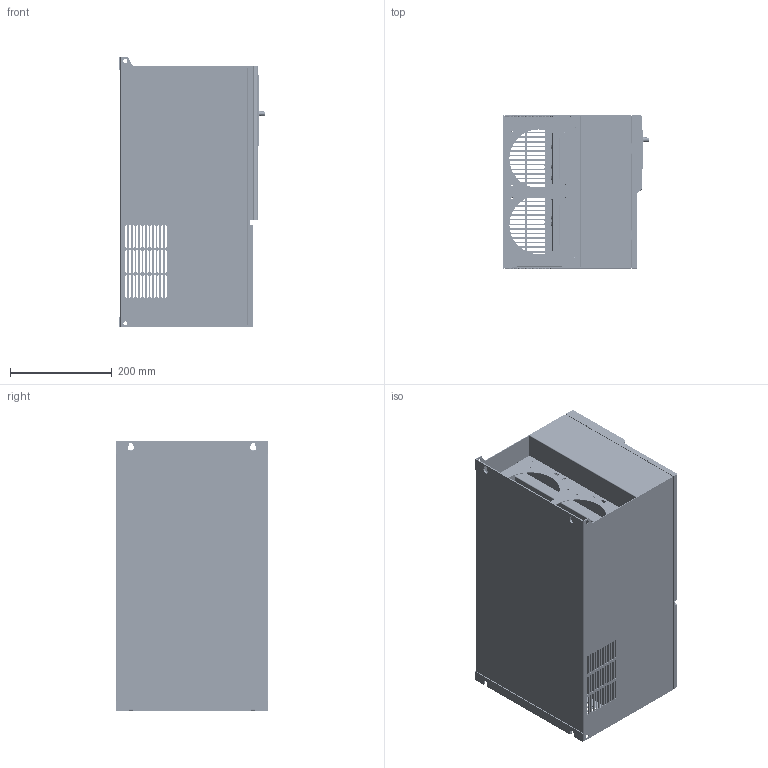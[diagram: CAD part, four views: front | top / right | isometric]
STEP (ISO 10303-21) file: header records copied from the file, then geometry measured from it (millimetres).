
FILE_DESCRIPTION(('STEP AP203'), '1');
FILE_NAME('Ïðåîáðàçîâàòåëü ÷àñòîòû _ MCI-G45_P55-4', '', ('UNSPECIFIED'), ('UNSPECIFIED'), 'C3D Converter', 'C3D Toolkit', '');
FILE_SCHEMA(('CONFIG_CONTROL_DESIGN'));
Length unit declared in the file: millimetre
Products named in the file (50): MCI-G45_P55-4; MCI-G45; S-M4-1; FCI-G75; BSO-M4-10; BSO-M3-12; ПУ; S-M3-1; S-M8-1; Клемма; MCI-MF-B; MCI-KP-B
Assembly tree (131 placements, depth 4):
  MCI-G45_P55-4
    MCI-G45
      MCI-G45
        MCI-G45
        S-M4-1  x2
      MCI-G45
        MCI-G45
        S-M4-1  x5
        FCI-G75  x2
      MCI-G45
        MCI-G45
        S-M4-1  x15
        BSO-M4-10  x2
      MCI-G45  x2
        MCI-G45
        S-M4-1
      MCI-G45
      MCI-G45
      MCI-G45  x8
      MCI-G45  x2
      MCI-G45  x2
        MCI-G45
        S-M4-1
      MCI-G45  x4
        MCI-G45
        S-M4-1
      MCI-G45
        MCI-G45
        S-M4-1  x2
    MCI-G45
      MCI-G45
      S-M4-1  x8
    MCI-G45
      MCI-G45
      FCI-G75  x4
    MCI-G45
      MCI-G45
      BSO-M3-12  x4
      S-M4-1  x3
      MCI-G45
        ПУ
        ПУ
        ПУ
    MCI-G45
    MCI-G45
      MCI-G45
      S-M3-1  x9
      S-M8-1  x2
      MCI-G45  x9
        Клемма
        Клемма
        Клемма
    MCI-G45
      MCI-G45
      S-M4-1  x2
    MCI-G45
    MCI-G45
      MCI-G45
      S-M4-1  x2
    MCI-MF-B
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Bounding box: 285.67 x 300 x 531 mm (x, y, z)
Volume: 1815773.8 mm3; surface area: 2233742 mm2
Topology: 150 solids, 154 shells, 9131 faces, 24392 edges, 15994 vertices
Faces by surface type: plane 7384, cylinder 1373, cone 216, torus 102, extrusion 48, bspline 4, revolution 2, sphere 2
Full cylindrical faces by diameter (mm): 0.5 x16, 1 x16, 1.7 x2, 2 x4, 2.459 x19, 2.7 x4, 3 x8, 3.242 x53, 3.8 x24, 4.134 x9, 4.2 x9, 4.22 x9, 4.4 x15, 5 x16, 5.38 x51, 5.4 x67, 5.5 x7, 6 x2, 6.3 x9, 6.647 x2, 7 x9, 7.9 x51, 8 x13, 9 x9, 10.4 x2, 10.44 x2, 12 x1, 12.65 x2, 22 x2, 38 x1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
Entity records: 126947 total; most frequent: CARTESIAN_POINT 21053, ORIENTED_EDGE 18982, DIRECTION 18838, EDGE_CURVE 9491, VECTOR 7540, LINE 7492, VERTEX_POINT 6277, AXIS2_PLACEMENT_3D 5648
